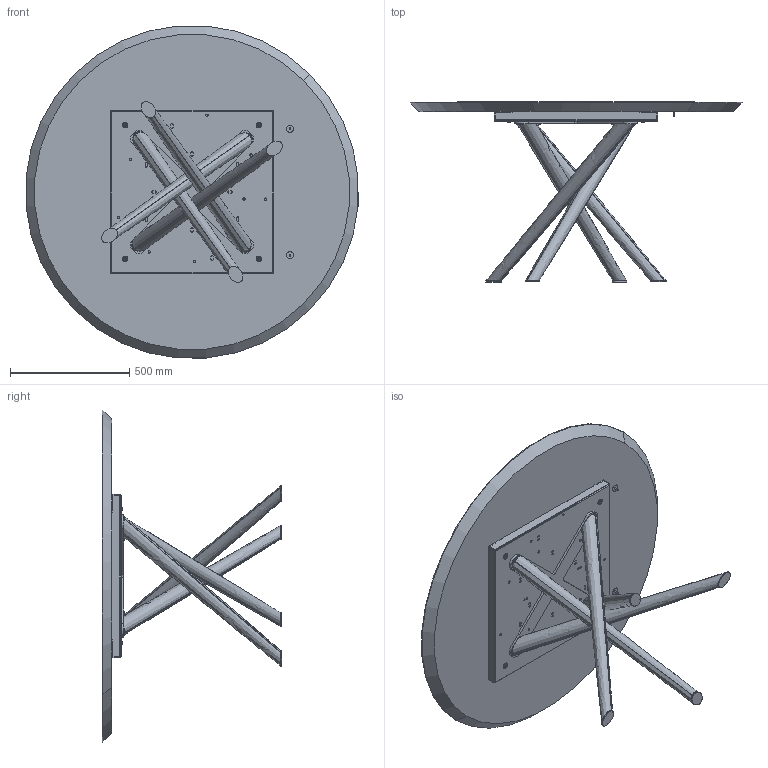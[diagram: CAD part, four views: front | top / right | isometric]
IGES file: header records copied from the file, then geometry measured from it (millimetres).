
Start section: SolidWorks IGES file using analytic representation for surfaces
Global section: file name: Y:\eforma\TECNICO\SOLIDWORKS\E-FORMA\1-TAVOLI\BALY\02 parts\BA06W.IGS; native system: SolidWorks 2022; preprocessor: SolidWorks 2022; author: eforma.tech; date: 240808.084151; units: millimetre
Bounding box: 1394.67 x 755 x 1394.67 mm (x, y, z)
Volume: 63320694.6 mm3; surface area: 5989040.8 mm2
Topology: 43 solids, 43 shells, 1103 faces, 2645 edges, 1612 vertices
Faces by surface type: revolution 649, plane 446, bspline 8
